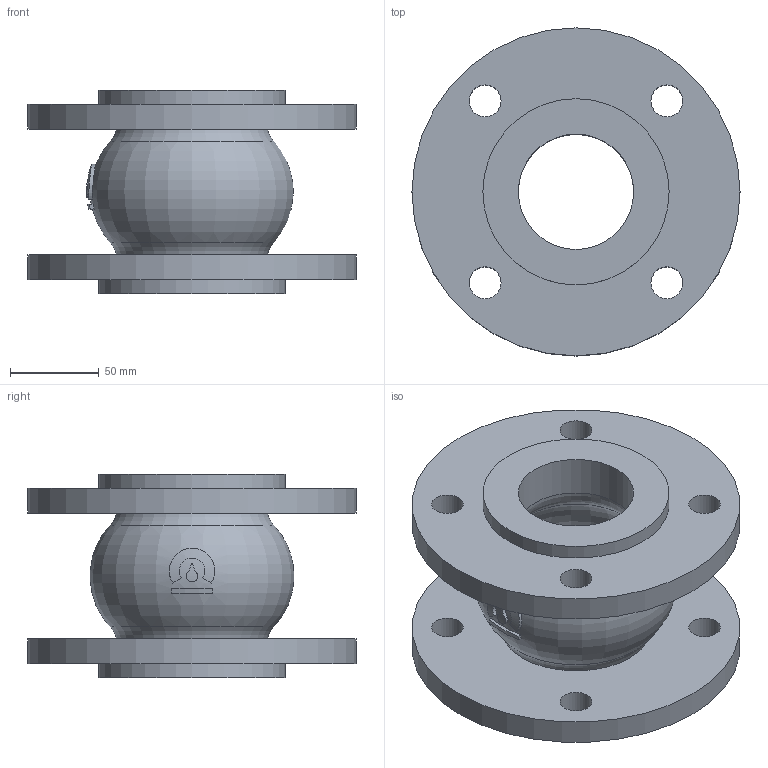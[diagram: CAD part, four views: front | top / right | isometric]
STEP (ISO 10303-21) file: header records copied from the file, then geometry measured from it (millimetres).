
FILE_DESCRIPTION(('STEP AP203'), '1');
FILE_NAME('Êîìïåíñàòîð KMS DN65 PN10_16', '', ('UNSPECIFIED'), ('UNSPECIFIED'), 'ASCON STEP Converter 1.6', 'ASCON Math Kernel', '');
FILE_SCHEMA(('CONFIG_CONTROL_DESIGN'));
Length unit declared in the file: millimetre
Bounding box: 185 x 185 x 115 mm (x, y, z)
Volume: 948945.3 mm3; surface area: 168590.1 mm2
Topology: 1 solids, 1 shells, 43 faces, 96 edges, 62 vertices
Faces by surface type: cylinder 21, plane 13, torus 9
Full cylindrical faces by diameter (mm): 18 x8, 65 x2, 105 x2, 185 x2
Entity records: 2314 total; most frequent: CARTESIAN_POINT 1023, DIRECTION 182, ORIENTED_EDGE 152, EDGE_LOOP 88, AXIS2_PLACEMENT_3D 84, EDGE_CURVE 76, VERTEX_POINT 62, FACE_BOUND 48
